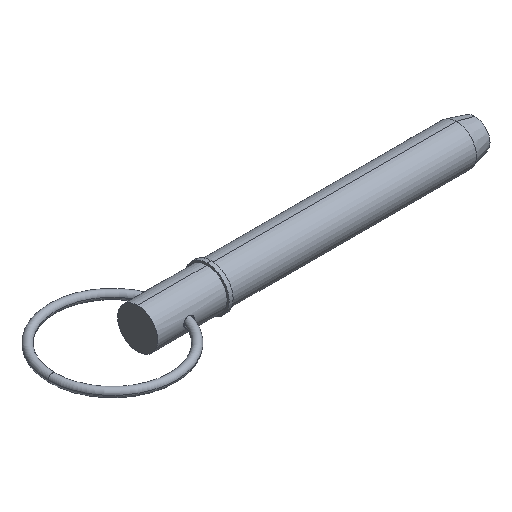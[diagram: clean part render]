
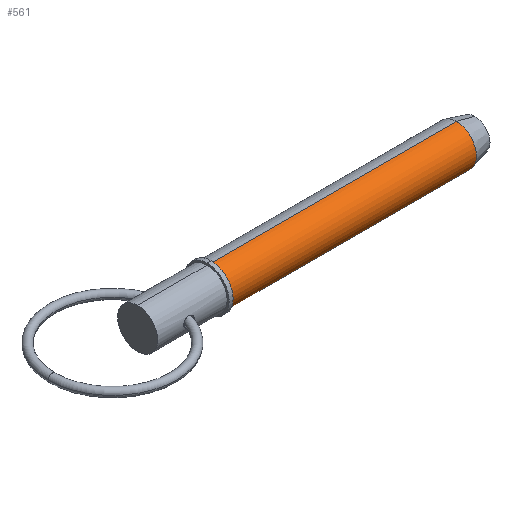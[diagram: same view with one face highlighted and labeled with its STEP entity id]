
A CAD part, isometric view. The second image highlights one B-rep face of the part: STEP entity #561.
In plain terms, the highlighted cylindrical face has radius 9.525 mm (diameter 19.05 mm), a partial arc.
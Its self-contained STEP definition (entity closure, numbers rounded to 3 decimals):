
#15 = EDGE_CURVE ( 'NONE', #737, #117, #26, .T. ) ;
#17 = CARTESIAN_POINT ( 'NONE',  ( 151.443, 0., 0. ) ) ;
#26 = CIRCLE ( 'NONE', #1038, 9.525 ) ;
#35 = CARTESIAN_POINT ( 'NONE',  ( 0., 0., -9.525 ) ) ;
#40 = LINE ( 'NONE', #35, #666 ) ;
#77 = DIRECTION ( 'NONE',  ( 0., 0., -1. ) ) ;
#83 = DIRECTION ( 'NONE',  ( 0., 0., -1. ) ) ;
#88 = DIRECTION ( 'NONE',  ( 1., 0., 0. ) ) ;
#112 = AXIS2_PLACEMENT_3D ( 'NONE', #639, #502, #83 ) ;
#117 = VERTEX_POINT ( 'NONE', #177 ) ;
#135 = ORIENTED_EDGE ( 'NONE', *, *, #714, .T. ) ;
#177 = CARTESIAN_POINT ( 'NONE',  ( 34.93, 0., -9.525 ) ) ;
#191 = ORIENTED_EDGE ( 'NONE', *, *, #551, .F. ) ;
#281 = ORIENTED_EDGE ( 'NONE', *, *, #578, .F. ) ;
#318 = VECTOR ( 'NONE', #329, 1000. ) ;
#329 = DIRECTION ( 'NONE',  ( 1., 0., 0. ) ) ;
#364 = DIRECTION ( 'NONE',  ( 1., 0., 0. ) ) ;
#397 = CARTESIAN_POINT ( 'NONE',  ( 151.443, 0., -9.525 ) ) ;
#403 = CARTESIAN_POINT ( 'NONE',  ( 34.93, 0., 0. ) ) ;
#502 = DIRECTION ( 'NONE',  ( 1., 0., 0. ) ) ;
#551 = EDGE_CURVE ( 'NONE', #737, #913, #989, .T. ) ;
#561 = ADVANCED_FACE ( 'NONE', ( #584 ), #910, .T. ) ;
#578 = EDGE_CURVE ( 'NONE', #913, #856, #700, .T. ) ;
#584 = FACE_OUTER_BOUND ( 'NONE', #762, .T. ) ;
#639 = CARTESIAN_POINT ( 'NONE',  ( 0., 0., 0. ) ) ;
#666 = VECTOR ( 'NONE', #364, 1000. ) ;
#689 = CARTESIAN_POINT ( 'NONE',  ( 34.93, 0., 9.525 ) ) ;
#700 = CIRCLE ( 'NONE', #847, 9.525 ) ;
#714 = EDGE_CURVE ( 'NONE', #117, #856, #40, .T. ) ;
#723 = DIRECTION ( 'NONE',  ( 0., 0., -1. ) ) ;
#737 = VERTEX_POINT ( 'NONE', #689 ) ;
#762 = EDGE_LOOP ( 'NONE', ( #191, #799, #135, #281 ) ) ;
#799 = ORIENTED_EDGE ( 'NONE', *, *, #15, .T. ) ;
#813 = CARTESIAN_POINT ( 'NONE',  ( 0., 0., 9.525 ) ) ;
#847 = AXIS2_PLACEMENT_3D ( 'NONE', #17, #88, #77 ) ;
#856 = VERTEX_POINT ( 'NONE', #397 ) ;
#888 = DIRECTION ( 'NONE',  ( 1., 0., 0. ) ) ;
#910 = CYLINDRICAL_SURFACE ( 'NONE', #112, 9.525 ) ;
#913 = VERTEX_POINT ( 'NONE', #982 ) ;
#982 = CARTESIAN_POINT ( 'NONE',  ( 151.443, 0., 9.525 ) ) ;
#989 = LINE ( 'NONE', #813, #318 ) ;
#1038 = AXIS2_PLACEMENT_3D ( 'NONE', #403, #888, #723 ) ;
